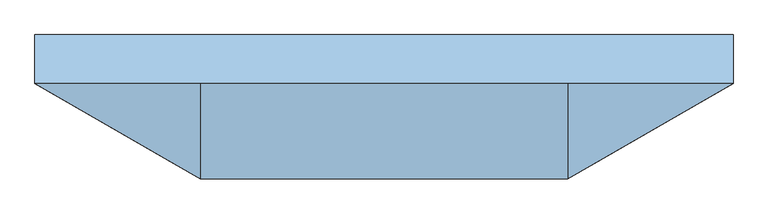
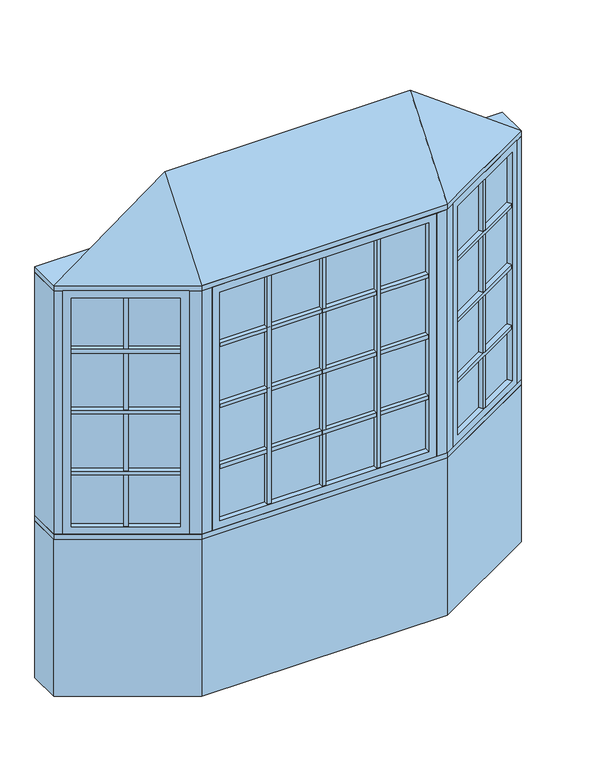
"""IFC4 building model written with IfcOpenShell, lengths in millimetres: window geometry, Pollard_Windows_Tudor Casement Bows and Bays : AML-BAY 30 AFR0512-12-500_GC."""

from ifc_helpers import new_model, si_unit, frame, origin, origin_with_axes, place, context, project, spatial, polyline, outline, extrude, faceted_brep, source, transform, mapped, element, save


def window_b91a7c74(model_context):
    return source(origin(), model_context, "Body", "SolidModel", [
        extrude(outline(polyline([(645.7305346, -327.3537343), (634.7305346, -308.3011754), (1015.6135794, -88.3982469), (1026.6135794, -107.4508058), (645.7305346, -327.3537343)])), frame((0.0, 0.0, 1390.998), z_axis=(0.0, 0.0, 1.0), x_axis=(1.0, 0.0, 0.0)), (0.0, 0.0, 1.0), 18.0),
        extrude(outline(polyline([(632.1905346, -303.9017664), (621.1905346, -284.8492075), (1002.0735794, -64.946279), (1013.0735794, -83.9988379), (632.1905346, -303.9017664)])), frame((0.0, 0.0, 1390.998), z_axis=(0.0, 0.0, 1.0), x_axis=(1.0, 0.0, 0.0)), (0.0, 0.0, 1.0), 18.0),
        extrude(outline(polyline([(645.7305346, -327.3537343), (634.7305346, -308.3011754), (1015.6135794, -88.3982469), (1026.6135794, -107.4508058), (645.7305346, -327.3537343)])), frame((0.0, 0.0, 1090.998), z_axis=(0.0, 0.0, 1.0), x_axis=(1.0, 0.0, 0.0)), (0.0, 0.0, 1.0), 18.0),
        extrude(outline(polyline([(632.1905346, -303.9017664), (621.1905346, -284.8492075), (1002.0735794, -64.946279), (1013.0735794, -83.9988379), (632.1905346, -303.9017664)])), frame((0.0, 0.0, 1090.998), z_axis=(0.0, 0.0, 1.0), x_axis=(1.0, 0.0, 0.0)), (0.0, 0.0, 1.0), 18.0),
        extrude(outline(polyline([(645.7305346, -327.3537343), (634.7305346, -308.3011754), (1015.6135794, -88.3982469), (1026.6135794, -107.4508058), (645.7305346, -327.3537343)])), frame((0.0, 0.0, 1390.998), z_axis=(0.0, 0.0, 1.0), x_axis=(1.0, 0.0, 0.0)), (0.0, 0.0, 1.0), 18.0),
        extrude(outline(polyline([(632.1905346, -303.9017664), (621.1905346, -284.8492075), (1002.0735794, -64.946279), (1013.0735794, -83.9988379), (632.1905346, -303.9017664)])), frame((0.0, 0.0, 1390.998), z_axis=(0.0, 0.0, 1.0), x_axis=(1.0, 0.0, 0.0)), (0.0, 0.0, 1.0), 18.0),
        extrude(outline(polyline([(645.7305346, -327.3537343), (634.7305346, -308.3011754), (1015.6135794, -88.3982469), (1026.6135794, -107.4508058), (645.7305346, -327.3537343)])), frame((0.0, 0.0, 1390.998), z_axis=(0.0, 0.0, 1.0), x_axis=(1.0, 0.0, 0.0)), (0.0, 0.0, 1.0), 18.0),
        extrude(outline(polyline([(632.1905346, -303.9017664), (621.1905346, -284.8492075), (1002.0735794, -64.946279), (1013.0735794, -83.9988379), (632.1905346, -303.9017664)])), frame((0.0, 0.0, 1390.998), z_axis=(0.0, 0.0, 1.0), x_axis=(1.0, 0.0, 0.0)), (0.0, 0.0, 1.0), 18.0),
        extrude(outline(polyline([(645.7305346, -327.3537343), (634.7305346, -308.3011754), (1015.6135794, -88.3982469), (1026.6135794, -107.4508058), (645.7305346, -327.3537343)])), frame((0.0, 0.0, 1690.998), z_axis=(0.0, 0.0, 1.0), x_axis=(1.0, 0.0, 0.0)), (0.0, 0.0, 1.0), 18.0),
        extrude(outline(polyline([(632.1905346, -303.9017664), (621.1905346, -284.8492075), (1002.0735794, -64.946279), (1013.0735794, -83.9988379), (632.1905346, -303.9017664)])), frame((0.0, 0.0, 1690.998), z_axis=(0.0, 0.0, 1.0), x_axis=(1.0, 0.0, 0.0)), (0.0, 0.0, 1.0), 18.0),
        extrude(outline(polyline([(832.9662856, -193.8497112), (843.9662856, -212.9022701), (828.3778284, -221.9022701), (817.3778284, -202.8497112), (832.9662856, -193.8497112)])), frame((0.0, 0.0, 835.8628), z_axis=(0.0, 0.0, 1.0), x_axis=(1.0, 0.0, 0.0)), (0.0, 0.0, 1.0), 1128.2704),
        extrude(outline(polyline([(830.4262856, -189.4503021), (814.8378284, -198.4503021), (803.8378284, -179.3977432), (819.4262856, -170.3977432), (830.4262856, -189.4503021)])), frame((0.0, 0.0, 835.8628), z_axis=(0.0, 0.0, 1.0), x_axis=(1.0, 0.0, 0.0)), (0.0, 0.0, 1.0), 1128.2704),
        extrude(outline(polyline([(1026.612102, -82.0482469), (623.7320119, -314.6511754), (621.1920119, -310.2517664), (1024.072102, -77.6488379), (1026.612102, -82.0482469)])), frame((0.0, 0.0, 823.1628), z_axis=(0.0, 0.0, 1.0), x_axis=(1.0, 0.0, 0.0)), (0.0, 0.0, 1.0), 1153.6704),
        faceted_brep([(1015.6135794, -88.3982469, 835.8628), (1028.3135794, -110.3952922, 835.8628), (1028.3135794, -110.3952922, 1964.1332), (1015.6135794, -88.3982469, 1964.1332), (1024.072102, -77.6488379, 823.1628), (1026.612102, -82.0482469, 823.1628), (1026.612102, -82.0482469, 1976.8332), (1024.072102, -77.6488379, 1976.8332), (1000.3735794, -62.0017926, 835.8628), (1013.0735794, -83.9988379, 835.8628), (1013.0735794, -83.9988379, 1964.1332), (1000.3735794, -62.0017926, 1964.1332), (1059.3734073, -92.4628922, 799.998), (1031.4334073, -44.0693926, 799.998), (1031.4334073, -44.0693926, 1999.998), (1059.3734073, -92.4628922, 1999.998), (647.4305346, -330.2982207, 1964.1332), (634.7305346, -308.3011754, 1964.1332), (623.7320119, -314.6511754, 1976.8332), (621.1920119, -310.2517664, 1976.8332), (632.1905346, -303.9017664, 1964.1332), (619.4905346, -281.9047211, 1964.1332), (588.4307067, -299.8371211, 1999.998), (616.3707067, -348.2306207, 1999.998), (647.4305346, -330.2982207, 835.8628), (634.7305346, -308.3011754, 835.8628), (623.7320119, -314.6511754, 823.1628), (621.1920119, -310.2517664, 823.1628), (632.1905346, -303.9017664, 835.8628), (619.4905346, -281.9047211, 835.8628), (588.4307067, -299.8371211, 799.998), (616.3707067, -348.2306207, 799.998)], [[[0, 1, 2, 3]], [[4, 5, 6, 7]], [[8, 9, 10, 11]], [[12, 13, 14, 15]], [[3, 2, 16, 17]], [[7, 6, 18, 19]], [[11, 10, 20, 21]], [[15, 14, 22, 23]], [[17, 16, 24, 25]], [[19, 18, 26, 27]], [[21, 20, 28, 29]], [[23, 22, 30, 31]], [[25, 24, 1, 0]], [[5, 26, 18, 6], [3, 17, 25, 0]], [[27, 26, 5, 4]], [[7, 19, 27, 4], [9, 28, 20, 10]], [[29, 28, 9, 8]], [[13, 30, 22, 14], [11, 21, 29, 8]], [[31, 30, 13, 12]], [[15, 23, 31, 12], [1, 24, 16, 2]]]),
        extrude(outline(polyline([(263.4524182, -347.8306207), (263.4524182, -369.8306207), (245.4524182, -369.8306207), (245.4524182, -347.8306207), (263.4524182, -347.8306207)])), frame((0.0, 0.0, 835.8628), z_axis=(0.0, 0.0, 1.0), x_axis=(1.0, 0.0, 0.0)), (0.0, 0.0, 1.0), 1128.2704),
        extrude(outline(polyline([(263.4524182, -342.7506207), (245.4524182, -342.7506207), (245.4524182, -320.7506207), (263.4524182, -320.7506207), (263.4524182, -342.7506207)])), frame((0.0, 0.0, 835.8628), z_axis=(0.0, 0.0, 1.0), x_axis=(1.0, 0.0, 0.0)), (0.0, 0.0, 1.0), 1128.2704),
        extrude(outline(polyline([(-245.4524182, -347.8306207), (-245.4524182, -369.8306207), (-263.4524182, -369.8306207), (-263.4524182, -347.8306207), (-245.4524182, -347.8306207)])), frame((0.0, 0.0, 835.8628), z_axis=(0.0, 0.0, 1.0), x_axis=(1.0, 0.0, 0.0)), (0.0, 0.0, 1.0), 1128.2704),
        extrude(outline(polyline([(-245.4524182, -342.7506207), (-263.4524182, -342.7506207), (-263.4524182, -320.7506207), (-245.4524182, -320.7506207), (-245.4524182, -342.7506207)])), frame((0.0, 0.0, 835.8628), z_axis=(0.0, 0.0, 1.0), x_axis=(1.0, 0.0, 0.0)), (0.0, 0.0, 1.0), 1128.2704),
        extrude(outline(polyline([(-487.2046365, -369.8306207), (-487.2046365, -347.8306207), (487.2046365, -347.8306207), (487.2046365, -369.8306207), (-487.2046365, -369.8306207)])), frame((0.0, 0.0, 1090.998), z_axis=(0.0, 0.0, 1.0), x_axis=(1.0, 0.0, 0.0)), (0.0, 0.0, 1.0), 18.0),
        extrude(outline(polyline([(-487.2046365, -342.7506207), (-487.2046365, -320.7506207), (487.2046365, -320.7506207), (487.2046365, -342.7506207), (-487.2046365, -342.7506207)])), frame((0.0, 0.0, 1090.998), z_axis=(0.0, 0.0, 1.0), x_axis=(1.0, 0.0, 0.0)), (0.0, 0.0, 1.0), 18.0),
        extrude(outline(polyline([(-487.2046365, -369.8306207), (-487.2046365, -347.8306207), (487.2046365, -347.8306207), (487.2046365, -369.8306207), (-487.2046365, -369.8306207)])), frame((0.0, 0.0, 1390.998), z_axis=(0.0, 0.0, 1.0), x_axis=(1.0, 0.0, 0.0)), (0.0, 0.0, 1.0), 18.0),
        extrude(outline(polyline([(-487.2046365, -342.7506207), (-487.2046365, -320.7506207), (487.2046365, -320.7506207), (487.2046365, -342.7506207), (-487.2046365, -342.7506207)])), frame((0.0, 0.0, 1390.998), z_axis=(0.0, 0.0, 1.0), x_axis=(1.0, 0.0, 0.0)), (0.0, 0.0, 1.0), 18.0),
        extrude(outline(polyline([(-487.2046365, -369.8306207), (-487.2046365, -347.8306207), (487.2046365, -347.8306207), (487.2046365, -369.8306207), (-487.2046365, -369.8306207)])), frame((0.0, 0.0, 1390.998), z_axis=(0.0, 0.0, 1.0), x_axis=(1.0, 0.0, 0.0)), (0.0, 0.0, 1.0), 18.0),
        extrude(outline(polyline([(-487.2046365, -342.7506207), (-487.2046365, -320.7506207), (487.2046365, -320.7506207), (487.2046365, -342.7506207), (-487.2046365, -342.7506207)])), frame((0.0, 0.0, 1390.998), z_axis=(0.0, 0.0, 1.0), x_axis=(1.0, 0.0, 0.0)), (0.0, 0.0, 1.0), 18.0),
        extrude(outline(polyline([(-487.2046365, -369.8306207), (-487.2046365, -347.8306207), (487.2046365, -347.8306207), (487.2046365, -369.8306207), (-487.2046365, -369.8306207)])), frame((0.0, 0.0, 1390.998), z_axis=(0.0, 0.0, 1.0), x_axis=(1.0, 0.0, 0.0)), (0.0, 0.0, 1.0), 18.0),
        extrude(outline(polyline([(-487.2046365, -342.7506207), (-487.2046365, -320.7506207), (487.2046365, -320.7506207), (487.2046365, -342.7506207), (-487.2046365, -342.7506207)])), frame((0.0, 0.0, 1390.998), z_axis=(0.0, 0.0, 1.0), x_axis=(1.0, 0.0, 0.0)), (0.0, 0.0, 1.0), 18.0),
        extrude(outline(polyline([(-1026.6135794, -107.4508058), (-1015.6135794, -88.3982469), (-634.7305346, -308.3011754), (-645.7305346, -327.3537343), (-1026.6135794, -107.4508058)])), frame((0.0, 0.0, 1090.998), z_axis=(0.0, 0.0, 1.0), x_axis=(1.0, 0.0, 0.0)), (0.0, 0.0, 1.0), 18.0),
        extrude(outline(polyline([(-1013.0735794, -83.9988379), (-1002.0735794, -64.946279), (-621.1905346, -284.8492075), (-632.1905346, -303.9017664), (-1013.0735794, -83.9988379)])), frame((0.0, 0.0, 1090.998), z_axis=(0.0, 0.0, 1.0), x_axis=(1.0, 0.0, 0.0)), (0.0, 0.0, 1.0), 18.0),
        extrude(outline(polyline([(-1026.6135794, -107.4508058), (-1015.6135794, -88.3982469), (-634.7305346, -308.3011754), (-645.7305346, -327.3537343), (-1026.6135794, -107.4508058)])), frame((0.0, 0.0, 1390.998), z_axis=(0.0, 0.0, 1.0), x_axis=(1.0, 0.0, 0.0)), (0.0, 0.0, 1.0), 18.0),
        extrude(outline(polyline([(-1013.0735794, -83.9988379), (-1002.0735794, -64.946279), (-621.1905346, -284.8492075), (-632.1905346, -303.9017664), (-1013.0735794, -83.9988379)])), frame((0.0, 0.0, 1390.998), z_axis=(0.0, 0.0, 1.0), x_axis=(1.0, 0.0, 0.0)), (0.0, 0.0, 1.0), 18.0),
        extrude(outline(polyline([(-1026.6135794, -107.4508058), (-1015.6135794, -88.3982469), (-634.7305346, -308.3011754), (-645.7305346, -327.3537343), (-1026.6135794, -107.4508058)])), frame((0.0, 0.0, 1390.998), z_axis=(0.0, 0.0, 1.0), x_axis=(1.0, 0.0, 0.0)), (0.0, 0.0, 1.0), 18.0),
        extrude(outline(polyline([(-1013.0735794, -83.9988379), (-1002.0735794, -64.946279), (-621.1905346, -284.8492075), (-632.1905346, -303.9017664), (-1013.0735794, -83.9988379)])), frame((0.0, 0.0, 1390.998), z_axis=(0.0, 0.0, 1.0), x_axis=(1.0, 0.0, 0.0)), (0.0, 0.0, 1.0), 18.0),
        extrude(outline(polyline([(-1026.6135794, -107.4508058), (-1015.6135794, -88.3982469), (-634.7305346, -308.3011754), (-645.7305346, -327.3537343), (-1026.6135794, -107.4508058)])), frame((0.0, 0.0, 1390.998), z_axis=(0.0, 0.0, 1.0), x_axis=(1.0, 0.0, 0.0)), (0.0, 0.0, 1.0), 18.0),
        extrude(outline(polyline([(-1013.0735794, -83.9988379), (-1002.0735794, -64.946279), (-621.1905346, -284.8492075), (-632.1905346, -303.9017664), (-1013.0735794, -83.9988379)])), frame((0.0, 0.0, 1390.998), z_axis=(0.0, 0.0, 1.0), x_axis=(1.0, 0.0, 0.0)), (0.0, 0.0, 1.0), 18.0),
        extrude(outline(polyline([(-1026.6135794, -107.4508058), (-1015.6135794, -88.3982469), (-634.7305346, -308.3011754), (-645.7305346, -327.3537343), (-1026.6135794, -107.4508058)])), frame((0.0, 0.0, 1690.998), z_axis=(0.0, 0.0, 1.0), x_axis=(1.0, 0.0, 0.0)), (0.0, 0.0, 1.0), 18.0),
        extrude(outline(polyline([(-1013.0735794, -83.9988379), (-1002.0735794, -64.946279), (-621.1905346, -284.8492075), (-632.1905346, -303.9017664), (-1013.0735794, -83.9988379)])), frame((0.0, 0.0, 1690.998), z_axis=(0.0, 0.0, 1.0), x_axis=(1.0, 0.0, 0.0)), (0.0, 0.0, 1.0), 18.0),
        extrude(outline(polyline([(-487.2046365, -369.8306207), (-487.2046365, -347.8306207), (487.2046365, -347.8306207), (487.2046365, -369.8306207), (-487.2046365, -369.8306207)])), frame((0.0, 0.0, 1690.998), z_axis=(0.0, 0.0, 1.0), x_axis=(1.0, 0.0, 0.0)), (0.0, 0.0, 1.0), 18.0),
        extrude(outline(polyline([(-487.2046365, -342.7506207), (-487.2046365, -320.7506207), (487.2046365, -320.7506207), (487.2046365, -342.7506207), (-487.2046365, -342.7506207)])), frame((0.0, 0.0, 1690.998), z_axis=(0.0, 0.0, 1.0), x_axis=(1.0, 0.0, 0.0)), (0.0, 0.0, 1.0), 18.0),
        extrude(outline(polyline([(-817.3778284, -202.8497112), (-828.3778284, -221.9022701), (-843.9662856, -212.9022701), (-832.9662856, -193.8497112), (-817.3778284, -202.8497112)])), frame((0.0, 0.0, 835.8628), z_axis=(0.0, 0.0, 1.0), x_axis=(1.0, 0.0, 0.0)), (0.0, 0.0, 1.0), 1128.2704),
        extrude(outline(polyline([(-814.8378284, -198.4503021), (-830.4262856, -189.4503021), (-819.4262856, -170.3977432), (-803.8378284, -179.3977432), (-814.8378284, -198.4503021)])), frame((0.0, 0.0, 835.8628), z_axis=(0.0, 0.0, 1.0), x_axis=(1.0, 0.0, 0.0)), (0.0, 0.0, 1.0), 1128.2704),
        extrude(outline(polyline([(9.0, -347.8306207), (9.0, -369.8306207), (-9.0, -369.8306207), (-9.0, -347.8306207), (9.0, -347.8306207)])), frame((0.0, 0.0, 835.8628), z_axis=(0.0, 0.0, 1.0), x_axis=(1.0, 0.0, 0.0)), (0.0, 0.0, 1.0), 1128.2704),
        extrude(outline(polyline([(9.0, -342.7506207), (-9.0, -342.7506207), (-9.0, -320.7506207), (9.0, -320.7506207), (9.0, -342.7506207)])), frame((0.0, 0.0, 835.8628), z_axis=(0.0, 0.0, 1.0), x_axis=(1.0, 0.0, 0.0)), (0.0, 0.0, 1.0), 1128.2704),
        extrude(outline(polyline([(-623.7320119, -314.6511754), (-1026.612102, -82.0482469), (-1024.072102, -77.6488379), (-621.1920119, -310.2517664), (-623.7320119, -314.6511754)])), frame((0.0, 0.0, 823.1628), z_axis=(0.0, 0.0, 1.0), x_axis=(1.0, 0.0, 0.0)), (0.0, 0.0, 1.0), 1153.6704),
        faceted_brep([(-632.1905346, -303.9017664, 1964.1332), (-619.4905346, -281.9047211, 1964.1332), (-619.4905346, -281.9047211, 835.8628), (-632.1905346, -303.9017664, 835.8628), (-623.7320119, -314.6511754, 1976.8332), (-621.1920119, -310.2517664, 1976.8332), (-621.1920119, -310.2517664, 823.1628), (-623.7320119, -314.6511754, 823.1628), (-647.4305346, -330.2982207, 1964.1332), (-634.7305346, -308.3011754, 1964.1332), (-634.7305346, -308.3011754, 835.8628), (-647.4305346, -330.2982207, 835.8628), (-588.4307067, -299.8371211, 1999.998), (-616.3707067, -348.2306207, 1999.998), (-616.3707067, -348.2306207, 799.998), (-588.4307067, -299.8371211, 799.998), (-1000.3735794, -62.0017926, 835.8628), (-1013.0735794, -83.9988379, 835.8628), (-1024.072102, -77.6488379, 823.1628), (-1026.612102, -82.0482469, 823.1628), (-1015.6135794, -88.3982469, 835.8628), (-1028.3135794, -110.3952922, 835.8628), (-1059.3734073, -92.4628922, 799.998), (-1031.4334073, -44.0693926, 799.998), (-1000.3735794, -62.0017926, 1964.1332), (-1013.0735794, -83.9988379, 1964.1332), (-1024.072102, -77.6488379, 1976.8332), (-1026.612102, -82.0482469, 1976.8332), (-1015.6135794, -88.3982469, 1964.1332), (-1028.3135794, -110.3952922, 1964.1332), (-1059.3734073, -92.4628922, 1999.998), (-1031.4334073, -44.0693926, 1999.998)], [[[0, 1, 2, 3]], [[4, 5, 6, 7]], [[8, 9, 10, 11]], [[12, 13, 14, 15]], [[3, 2, 16, 17]], [[7, 6, 18, 19]], [[11, 10, 20, 21]], [[15, 14, 22, 23]], [[17, 16, 24, 25]], [[19, 18, 26, 27]], [[21, 20, 28, 29]], [[23, 22, 30, 31]], [[15, 23, 31, 12], [1, 24, 16, 2]], [[25, 24, 1, 0]], [[5, 26, 18, 6], [3, 17, 25, 0]], [[27, 26, 5, 4]], [[7, 19, 27, 4], [9, 28, 20, 10]], [[29, 28, 9, 8]], [[13, 30, 22, 14], [11, 21, 29, 8]], [[31, 30, 13, 12]]]),
        extrude(outline(polyline([(499.9046365, -347.8306207), (-499.9046365, -347.8306207), (-499.9046365, -342.7506207), (499.9046365, -342.7506207), (499.9046365, -347.8306207)])), frame((0.0, 0.0, 823.1628), z_axis=(0.0, 0.0, 1.0), x_axis=(1.0, 0.0, 0.0)), (0.0, 0.0, 1.0), 1153.6704),
        faceted_brep([(487.2046365, -347.8306207, 835.8628), (487.2046365, -373.2306207, 835.8628), (487.2046365, -373.2306207, 1964.1332), (487.2046365, -347.8306207, 1964.1332), (499.9046365, -342.7506207, 823.1628), (499.9046365, -347.8306207, 823.1628), (499.9046365, -347.8306207, 1976.8332), (499.9046365, -342.7506207, 1976.8332), (487.2046365, -317.3506207, 835.8628), (487.2046365, -342.7506207, 835.8628), (487.2046365, -342.7506207, 1964.1332), (487.2046365, -317.3506207, 1964.1332), (523.0694365, -373.2306207, 799.998), (523.0694365, -317.3506207, 799.998), (523.0694365, -317.3506207, 1999.998), (523.0694365, -373.2306207, 1999.998), (-487.2046365, -373.2306207, 1964.1332), (-487.2046365, -347.8306207, 1964.1332), (-499.9046365, -347.8306207, 1976.8332), (-499.9046365, -342.7506207, 1976.8332), (-487.2046365, -342.7506207, 1964.1332), (-487.2046365, -317.3506207, 1964.1332), (-523.0694365, -317.3506207, 1999.998), (-523.0694365, -373.2306207, 1999.998), (-487.2046365, -373.2306207, 835.8628), (-487.2046365, -347.8306207, 835.8628), (-499.9046365, -347.8306207, 823.1628), (-499.9046365, -342.7506207, 823.1628), (-487.2046365, -342.7506207, 835.8628), (-487.2046365, -317.3506207, 835.8628), (-523.0694365, -317.3506207, 799.998), (-523.0694365, -373.2306207, 799.998)], [[[0, 1, 2, 3]], [[4, 5, 6, 7]], [[8, 9, 10, 11]], [[12, 13, 14, 15]], [[3, 2, 16, 17]], [[7, 6, 18, 19]], [[11, 10, 20, 21]], [[15, 14, 22, 23]], [[17, 16, 24, 25]], [[19, 18, 26, 27]], [[21, 20, 28, 29]], [[23, 22, 30, 31]], [[15, 23, 31, 12], [1, 24, 16, 2]], [[25, 24, 1, 0]], [[5, 26, 18, 6], [3, 17, 25, 0]], [[27, 26, 5, 4]], [[7, 19, 27, 4], [9, 28, 20, 10]], [[29, 28, 9, 8]], [[13, 30, 22, 14], [11, 21, 29, 8]], [[31, 30, 13, 12]]]),
        faceted_brep([(1090.0, -74.7806207, 2025.398), (573.0694365, -373.2306207, 2025.398), (-573.0694365, -373.2306207, 2025.398), (-1090.0, -74.7806207, 2025.398), (-573.0694365, -74.7806207, 2406.398), (573.0694365, -74.7806207, 2406.398)], [[[0, 1, 2, 3]], [[3, 2, 4]], [[2, 1, 5, 4]], [[1, 0, 5]], [[0, 3, 4, 5]]]),
        extrude(outline(polyline([(-1090.0, 77.6193793), (1090.0, 77.6193793), (1090.0, -74.7806207), (573.0694365, -373.2306207), (-573.0694365, -373.2306207), (-1090.0, -74.7806207), (-1090.0, 77.6193793)])), frame((0.0, 0.0, 1999.998), z_axis=(0.0, 0.0, 1.0), x_axis=(1.0, 0.0, 0.0)), (0.0, 0.0, 1.0), 25.4),
        extrude(outline(polyline([(-1090.0, -74.7806207), (-1090.0, 77.6193793), (-1049.1645431, 77.6193793), (-1049.1645431, -74.7806207), (-1059.3734073, -92.4628922), (-1090.0, -74.7806207)])), frame((0.0, 0.0, 799.998), z_axis=(0.0, 0.0, 1.0), x_axis=(1.0, 0.0, 0.0)), (0.0, 0.0, 1.0), 1200.0),
        extrude(outline(polyline([(1090.0, 77.6193793), (1090.0, -74.7806207), (1059.3734073, -92.4628922), (1049.1645431, -74.7806207), (1049.1645431, 77.6193793), (1090.0, 77.6193793)])), frame((0.0, 0.0, 799.998), z_axis=(0.0, 0.0, 1.0), x_axis=(1.0, 0.0, 0.0)), (0.0, 0.0, 1.0), 1200.0),
        extrude(outline(polyline([(573.0694365, -373.2306207), (523.0694365, -373.2306207), (523.0694365, -323.2306207), (559.6719769, -323.2306207), (591.3707067, -304.9293505), (616.3707067, -348.2306207), (573.0694365, -373.2306207)])), frame((0.0, 0.0, 799.998), z_axis=(0.0, 0.0, 1.0), x_axis=(1.0, 0.0, 0.0)), (0.0, 0.0, 1.0), 1200.0),
        extrude(outline(polyline([(-573.0694365, -373.2306207), (-616.3707067, -348.2306207), (-591.3707067, -304.9293505), (-559.6719769, -323.2306207), (-523.0694365, -323.2306207), (-523.0694365, -373.2306207), (-573.0694365, -373.2306207)])), frame((0.0, 0.0, 799.998), z_axis=(0.0, 0.0, 1.0), x_axis=(1.0, 0.0, 0.0)), (0.0, 0.0, 1.0), 1200.0),
        extrude(outline(polyline([(-573.0694365, -373.2306207), (-1090.0, -74.7806207), (-1090.0, 77.6193793), (-1049.1645431, 77.6193793), (-532.2339796, -220.8306207), (532.2339796, -220.8306207), (1049.1645431, 77.6193793), (1090.0, 77.6193793), (1090.0, -74.7806207), (573.0694365, -373.2306207), (-573.0694365, -373.2306207)])), frame((0.0, 0.0, 774.598), z_axis=(0.0, 0.0, 1.0), x_axis=(1.0, 0.0, 0.0)), (0.0, 0.0, 1.0), 25.4),
        extrude(outline(polyline([(-1090.0, -74.7806207), (-1090.0, 77.6193793), (-1049.1645431, 77.6193793), (-532.2339796, -220.8306207), (532.2339796, -220.8306207), (1049.1645431, 77.6193793), (1090.0, 77.6193793), (1090.0, -74.7806207), (573.0694365, -373.2306207), (-573.0694365, -373.2306207), (-1090.0, -74.7806207)])), origin_with_axes(), (0.0, 0.0, 1.0), 774.598),
    ])


if __name__ == "__main__":
    model = new_model("IFC4")
    model_context = context("Model", 3, world=origin())
    ifc_project = project(units=[si_unit("LENGTHUNIT", "METRE", prefix="MILLI")], contexts=[model_context])
    site = spatial("IfcSite", under=ifc_project)
    building = spatial("IfcBuilding", under=site)
    placement = place(None, origin())
    window_shape = window_b91a7c74(model_context)
    element("IfcWindow", 1, ObjectType="Pollard_Windows_Tudor Casement Bows and Bays : AML-BAY 30 AFR0512-12-500_GC", at=placement, inside=building, context=model_context, shape_type="MappedRepresentation", body=[
        mapped(window_shape, transform((0.0, 0.0, 0.0), x_axis=(1.0, 0.0, 0.0), y_axis=(0.0, 1.0, 0.0), z_axis=(0.0, 0.0, 1.0))),
    ])
    save(model, "model.ifc")
